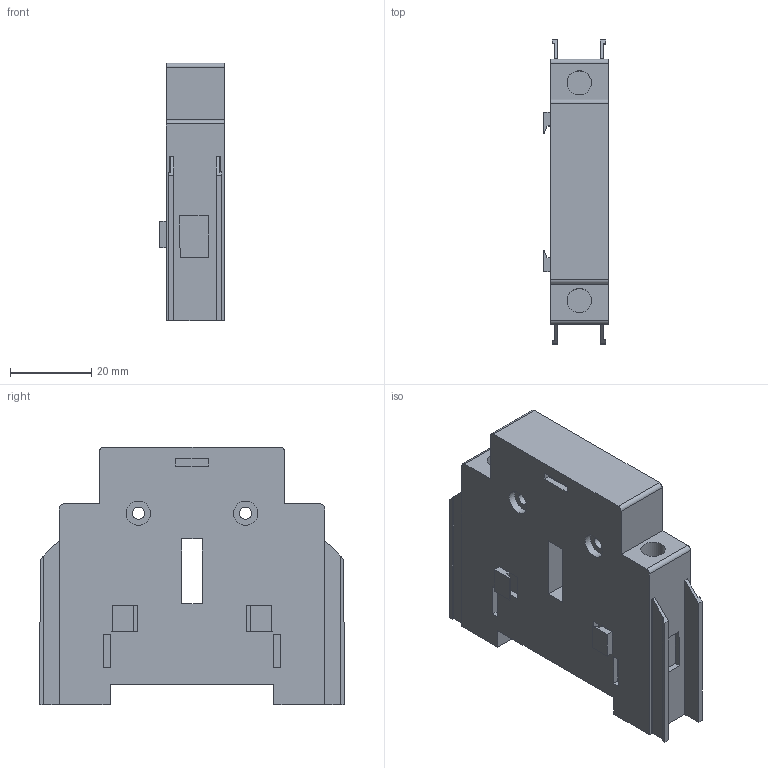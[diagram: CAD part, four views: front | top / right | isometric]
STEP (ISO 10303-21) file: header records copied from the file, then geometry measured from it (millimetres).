
FILE_DESCRIPTION (( 'STEP AP203' ), '1' );
FILE_NAME ('Ïîëþñ ÷åòâåðòûé OptiSwitch DI-16-63.STEP', '2023-02-21T20:24:08', ( 'Ïîëüçîâàòåëü' ), ( '' ), 'SwSTEP 2.0', 'SolidWorks 2018', '' );
FILE_SCHEMA (( 'CONFIG_CONTROL_DESIGN' ));
Length unit declared in the file: millimetre
Products named in the file (1): Ïîëþñ ÷åòâåðòûé OptiSwitch DI-16-63
Bounding box: 16 x 75 x 63.49 mm (x, y, z)
Volume: 47602.7 mm3; surface area: 16177.8 mm2
Topology: 3 solids, 3 shells, 146 faces, 379 edges, 253 vertices
Faces by surface type: plane 131, cylinder 9, bspline 6
Full cylindrical faces by diameter (mm): 3 x2, 6 x4, 7.154 x2
Entity records: 4434 total; most frequent: CARTESIAN_POINT 845, ORIENTED_EDGE 738, DIRECTION 657, EDGE_CURVE 369, LINE 339, VECTOR 339, VERTEX_POINT 251, EDGE_LOOP 174
